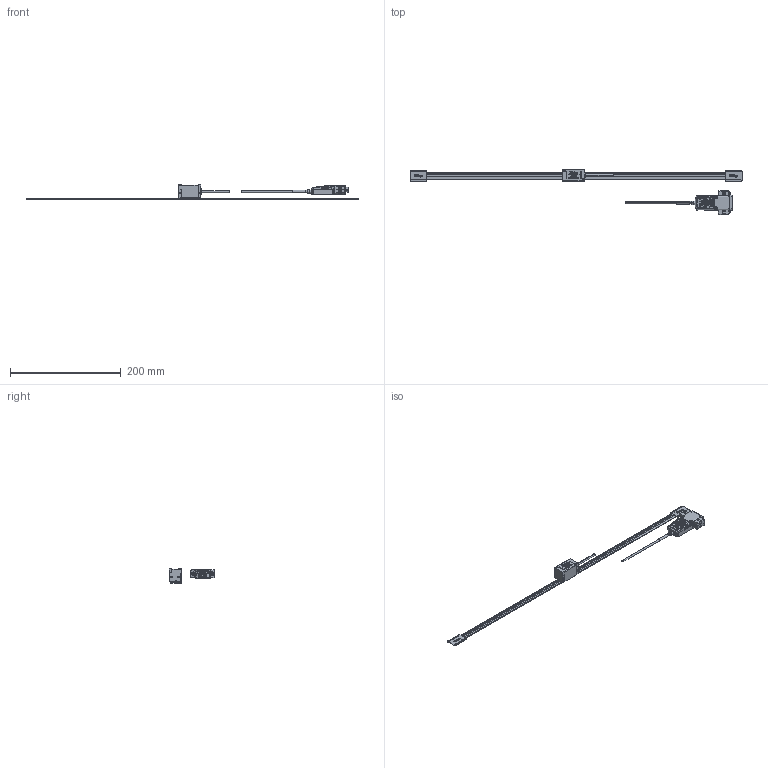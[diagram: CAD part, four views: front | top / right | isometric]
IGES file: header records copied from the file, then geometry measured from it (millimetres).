
Start section: Elysium IGES Interface
Global section: file name: 85H\\Utsu119s\kiyo_cad\data\3D\ABS ST1300\HP宖嵹梡_201708\ST1300-E僞僀僾\ST1300-500E.igs; native system: Creo Elements/Direct Modeling 18.1B  29-Sep-2012; preprocessor: Creo Element/Direct IGES_3D V2.2; author: Unknown; organization: Unknown; date: 20180227.103223; units: millimetre
Bounding box: 600 x 83 x 25.45 mm (x, y, z)
Volume: 24231.2 mm3; surface area: 33889.3 mm2
Topology: 3 solids, 6 shells, 3200 faces, 8942 edges, 5912 vertices
Faces by surface type: bspline 3200
